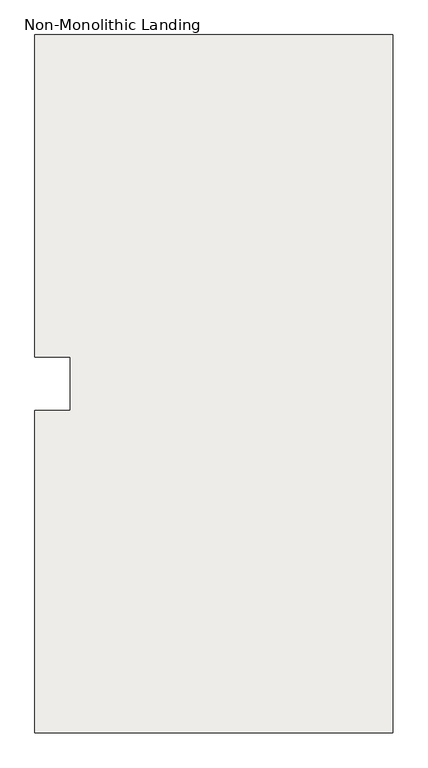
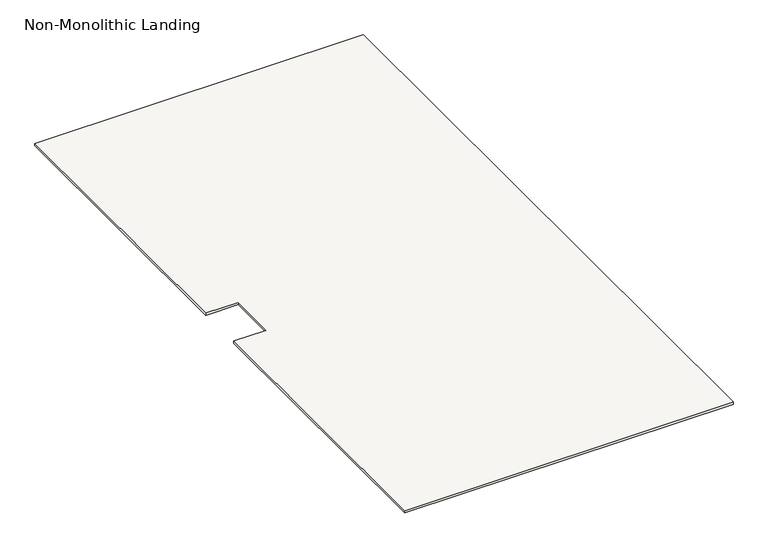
"""IFC4 building model written with IfcOpenShell, lengths in millimetres: slab geometry, Non-Monolithic Landing."""

from ifc_helpers import new_model, si_unit, frame, origin, place, context, project, spatial, polyline, outline, extrude, source, transform, mapped, element, save


def non_monolithic_landing_d0ae38d7(model_context):
    return source(origin(), model_context, "Body", "SweptSolid", [
        extrude(outline(polyline([(14712.5, 7700.0000224), (14812.4999776, 7700.0000224), (14812.4999776, 7850.0000116), (14712.5000334, 7850.0000116), (14712.5000334, 8759.9999854), (15722.5, 8759.9999854), (15722.5, 6790.0), (14712.5, 6790.0), (14712.5, 7700.0000224)])), frame((0.0, 0.0, 8428.2142857), z_axis=(0.0, 0.0, 1.0), x_axis=(1.0, 0.0, 0.0)), (0.0, 0.0, 1.0), 7.5),
    ])


if __name__ == "__main__":
    model = new_model("IFC4")
    model_context = context("Model", 3, world=origin())
    ifc_project = project(units=[si_unit("LENGTHUNIT", "METRE", prefix="MILLI")], contexts=[model_context])
    site = spatial("IfcSite", under=ifc_project)
    building = spatial("IfcBuilding", under=site)
    placement = place(None, origin())
    non_monolithic_landing_shape = non_monolithic_landing_d0ae38d7(model_context)
    element("IfcSlab", 1, ObjectType="Non-Monolithic Landing", at=placement, inside=building, context=model_context, shape_type="MappedRepresentation", body=[
        mapped(non_monolithic_landing_shape, transform((0.0, 0.0, 0.0), x_axis=(1.0, 0.0, 0.0), y_axis=(0.0, 1.0, 0.0), z_axis=(0.0, 0.0, 1.0))),
    ])
    save(model, "model.ifc")
